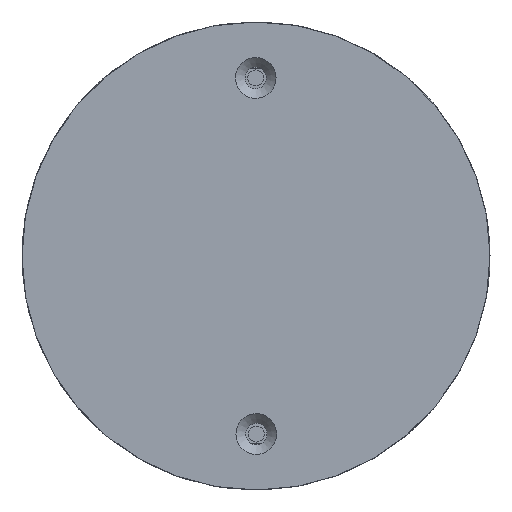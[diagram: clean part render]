
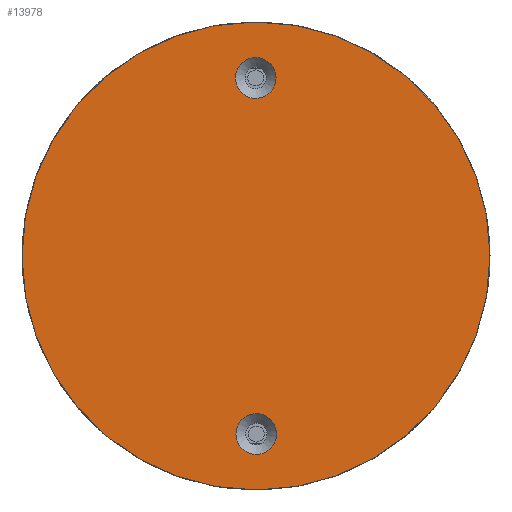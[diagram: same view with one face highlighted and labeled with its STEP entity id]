
A CAD part, left-side view. The second image highlights one B-rep face of the part: STEP entity #13978.
In plain terms, the highlighted planar face has unit normal (-1, 0, 0).
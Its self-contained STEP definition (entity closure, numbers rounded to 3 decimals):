
#2627=FACE_BOUND('',#5245,.T.);
#2628=FACE_BOUND('',#5246,.T.);
#3351=CIRCLE('',#15546,23.);
#3354=CIRCLE('',#15553,2.);
#3358=CIRCLE('',#15560,2.);
#3652=PLANE('',#15593);
#4409=FACE_OUTER_BOUND('',#5244,.T.);
#5244=EDGE_LOOP('',(#13039));
#5245=EDGE_LOOP('',(#13040));
#5246=EDGE_LOOP('',(#13041));
#6934=VERTEX_POINT('',#27668);
#6939=VERTEX_POINT('',#27687);
#6943=VERTEX_POINT('',#27701);
#8941=EDGE_CURVE('',#6934,#6934,#3351,.T.);
#8950=EDGE_CURVE('',#6939,#6939,#3354,.T.);
#8957=EDGE_CURVE('',#6943,#6943,#3358,.T.);
#13039=ORIENTED_EDGE('',*,*,#8941,.F.);
#13040=ORIENTED_EDGE('',*,*,#8950,.T.);
#13041=ORIENTED_EDGE('',*,*,#8957,.T.);
#13978=ADVANCED_FACE('',(#4409,#2627,#2628),#3652,.T.);
#15546=AXIS2_PLACEMENT_3D('',#27670,#19056,#19057);
#15553=AXIS2_PLACEMENT_3D('',#27688,#19076,#19077);
#15560=AXIS2_PLACEMENT_3D('',#27702,#19093,#19094);
#15593=AXIS2_PLACEMENT_3D('',#27767,#19171,#19172);
#19056=DIRECTION('center_axis',(1.,0.,0.));
#19057=DIRECTION('ref_axis',(0.,0.,-1.));
#19076=DIRECTION('center_axis',(1.,0.,0.));
#19077=DIRECTION('ref_axis',(0.,0.,1.));
#19093=DIRECTION('center_axis',(1.,0.,0.));
#19094=DIRECTION('ref_axis',(0.,0.,1.));
#19171=DIRECTION('center_axis',(-1.,0.,0.));
#19172=DIRECTION('ref_axis',(0.,0.,1.));
#27668=CARTESIAN_POINT('',(5.245,-23.,0.));
#27670=CARTESIAN_POINT('Origin',(5.245,0.,
0.));
#27687=CARTESIAN_POINT('',(5.245,0.,15.5));
#27688=CARTESIAN_POINT('Origin',(5.245,0.,17.5));
#27701=CARTESIAN_POINT('',(5.245,0.,-19.5));
#27702=CARTESIAN_POINT('Origin',(5.245,0.,-17.5));
#27767=CARTESIAN_POINT('Origin',(5.245,23.,0.));
